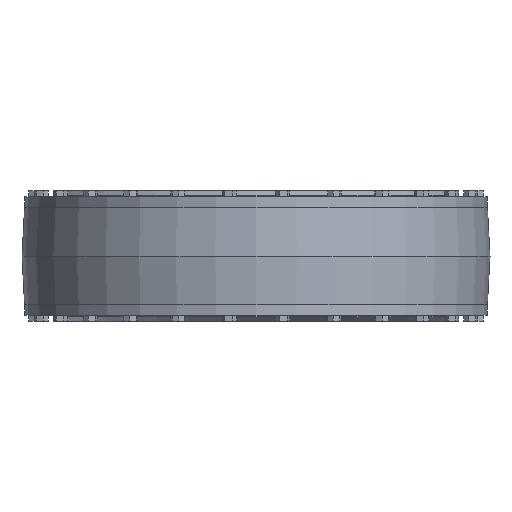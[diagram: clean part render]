
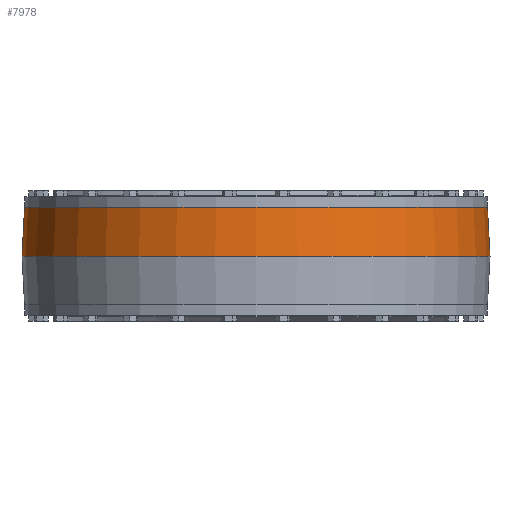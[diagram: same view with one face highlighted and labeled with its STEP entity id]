
A CAD part, front view. The second image highlights one B-rep face of the part: STEP entity #7978.
In plain terms, the highlighted conical face has half-angle 3 degrees and reference radius 351.173 mm.
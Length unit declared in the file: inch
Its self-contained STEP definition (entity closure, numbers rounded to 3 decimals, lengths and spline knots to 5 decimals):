
#66=CONICAL_SURFACE('',#8475,13.82573,0.052);
#208=CIRCLE('',#8473,13.75);
#209=CIRCLE('',#8474,13.75);
#210=CIRCLE('',#8476,13.90146);
#211=CIRCLE('',#8477,13.90146);
#610=FACE_OUTER_BOUND('',#1077,.T.);
#1077=EDGE_LOOP('',(#6781,#6782,#6783,#6784,#6785,#6786));
#2034=LINE('',#12568,#2991);
#2991=VECTOR('',#10403,13.82573);
#3690=VERTEX_POINT('',#12558);
#3691=VERTEX_POINT('',#12559);
#3692=VERTEX_POINT('',#12564);
#3693=VERTEX_POINT('',#12565);
#4721=EDGE_CURVE('',#3690,#3691,#208,.T.);
#4722=EDGE_CURVE('',#3691,#3690,#209,.T.);
#4724=EDGE_CURVE('',#3692,#3693,#210,.T.);
#4725=EDGE_CURVE('',#3693,#3692,#211,.T.);
#4726=EDGE_CURVE('',#3693,#3691,#2034,.T.);
#6781=ORIENTED_EDGE('',*,*,#4724,.F.);
#6782=ORIENTED_EDGE('',*,*,#4725,.F.);
#6783=ORIENTED_EDGE('',*,*,#4726,.T.);
#6784=ORIENTED_EDGE('',*,*,#4722,.T.);
#6785=ORIENTED_EDGE('',*,*,#4721,.T.);
#6786=ORIENTED_EDGE('',*,*,#4726,.F.);
#7978=ADVANCED_FACE('',(#610),#66,.T.);
#8473=AXIS2_PLACEMENT_3D('',#12560,#10392,#10393);
#8474=AXIS2_PLACEMENT_3D('',#12561,#10394,#10395);
#8475=AXIS2_PLACEMENT_3D('',#12563,#10397,#10398);
#8476=AXIS2_PLACEMENT_3D('',#12566,#10399,#10400);
#8477=AXIS2_PLACEMENT_3D('',#12567,#10401,#10402);
#10392=DIRECTION('center_axis',(0.,0.,-1.));
#10393=DIRECTION('ref_axis',(1.,0.,0.));
#10394=DIRECTION('center_axis',(0.,0.,-1.));
#10395=DIRECTION('ref_axis',(1.,0.,0.));
#10397=DIRECTION('center_axis',(0.,0.,-1.));
#10398=DIRECTION('ref_axis',(0.,1.,0.));
#10399=DIRECTION('center_axis',(0.,0.,-1.));
#10400=DIRECTION('ref_axis',(1.,0.,0.));
#10401=DIRECTION('center_axis',(0.,0.,-1.));
#10402=DIRECTION('ref_axis',(1.,0.,0.));
#10403=DIRECTION('',(0.,0.052,0.999));
#12558=CARTESIAN_POINT('',(0.,13.75,2.89));
#12559=CARTESIAN_POINT('',(0.,-13.75,2.89));
#12560=CARTESIAN_POINT('Origin',(0.,0.,2.89));
#12561=CARTESIAN_POINT('Origin',(0.,0.,2.89));
#12563=CARTESIAN_POINT('Origin',(0.,0.,1.445));
#12564=CARTESIAN_POINT('',(0.,13.90146,0.));
#12565=CARTESIAN_POINT('',(0.,-13.90146,0.));
#12566=CARTESIAN_POINT('Origin',(0.,0.,0.));
#12567=CARTESIAN_POINT('Origin',(0.,0.,0.));
#12568=CARTESIAN_POINT('',(0.,-13.82573,1.445));
